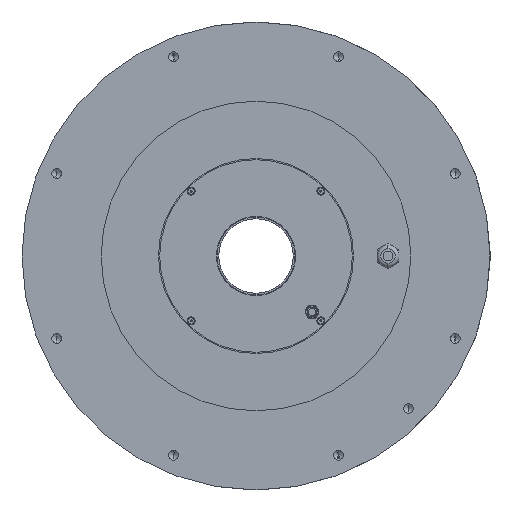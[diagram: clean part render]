
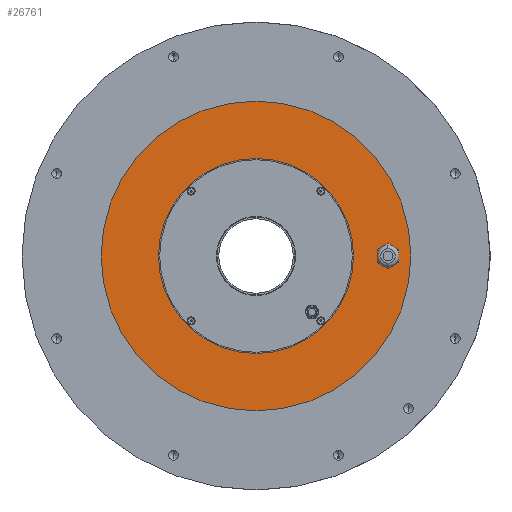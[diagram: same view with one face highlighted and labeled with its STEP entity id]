
A CAD part, front view. The second image highlights one B-rep face of the part: STEP entity #26761.
In plain terms, the highlighted planar face has unit normal (0, -1, 0).
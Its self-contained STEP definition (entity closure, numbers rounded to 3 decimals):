
#134 = EDGE_CURVE ( 'NONE', #17926, #4956, #18312, .T. ) ;
#193 = DIRECTION ( 'NONE',  ( 0., -1., 0. ) ) ;
#215 = VERTEX_POINT ( 'NONE', #12916 ) ;
#2795 = VERTEX_POINT ( 'NONE', #7818 ) ;
#2898 = AXIS2_PLACEMENT_3D ( 'NONE', #16652, #193, #32957 ) ;
#3465 = CARTESIAN_POINT ( 'NONE',  ( 115., 0., 0. ) ) ;
#3973 = CIRCLE ( 'NONE', #12915, 135. ) ;
#4238 = ORIENTED_EDGE ( 'NONE', *, *, #19837, .F. ) ;
#4525 = CARTESIAN_POINT ( 'NONE',  ( 0., 0., 0. ) ) ;
#4956 = VERTEX_POINT ( 'NONE', #31173 ) ;
#6704 = CARTESIAN_POINT ( 'NONE',  ( 115., 0., 7.25 ) ) ;
#6863 = EDGE_CURVE ( 'NONE', #215, #2795, #9346, .T. ) ;
#7202 = CARTESIAN_POINT ( 'NONE',  ( 0., 0., 0. ) ) ;
#7560 = DIRECTION ( 'NONE',  ( 0., 0., -1. ) ) ;
#7818 = CARTESIAN_POINT ( 'NONE',  ( 0., 0., -85. ) ) ;
#8483 = DIRECTION ( 'NONE',  ( 0., 1., 0. ) ) ;
#9346 = CIRCLE ( 'NONE', #9894, 85. ) ;
#9894 = AXIS2_PLACEMENT_3D ( 'NONE', #7202, #28601, #7560 ) ;
#10038 = FACE_OUTER_BOUND ( 'NONE', #12976, .T. ) ;
#12071 = AXIS2_PLACEMENT_3D ( 'NONE', #21782, #8483, #21970 ) ;
#12323 = EDGE_LOOP ( 'NONE', ( #32601, #31925 ) ) ;
#12335 = FACE_BOUND ( 'NONE', #12323, .T. ) ;
#12584 = DIRECTION ( 'NONE',  ( 0., 0., -1. ) ) ;
#12915 = AXIS2_PLACEMENT_3D ( 'NONE', #16175, #31814, #34246 ) ;
#12916 = CARTESIAN_POINT ( 'NONE',  ( 0., 0., 85. ) ) ;
#12976 = EDGE_LOOP ( 'NONE', ( #19325, #21318 ) ) ;
#13624 = AXIS2_PLACEMENT_3D ( 'NONE', #23028, #15119, #25842 ) ;
#14147 = DIRECTION ( 'NONE',  ( 0., 0., 1. ) ) ;
#15119 = DIRECTION ( 'NONE',  ( 0., -1., 0. ) ) ;
#16175 = CARTESIAN_POINT ( 'NONE',  ( 0., 0., 0. ) ) ;
#16652 = CARTESIAN_POINT ( 'NONE',  ( 0., 0., 0. ) ) ;
#17566 = CARTESIAN_POINT ( 'NONE',  ( 115., 0., -7.25 ) ) ;
#17926 = VERTEX_POINT ( 'NONE', #23473 ) ;
#17948 = AXIS2_PLACEMENT_3D ( 'NONE', #3465, #22379, #14147 ) ;
#18312 = CIRCLE ( 'NONE', #25600, 135. ) ;
#19198 = EDGE_CURVE ( 'NONE', #4956, #17926, #3973, .T. ) ;
#19325 = ORIENTED_EDGE ( 'NONE', *, *, #134, .T. ) ;
#19837 = EDGE_CURVE ( 'NONE', #2795, #215, #25290, .T. ) ;
#20054 = EDGE_LOOP ( 'NONE', ( #4238, #25935 ) ) ;
#21318 = ORIENTED_EDGE ( 'NONE', *, *, #19198, .T. ) ;
#21782 = CARTESIAN_POINT ( 'NONE',  ( 115., 0., 0. ) ) ;
#21970 = DIRECTION ( 'NONE',  ( 0., 0., 1. ) ) ;
#22379 = DIRECTION ( 'NONE',  ( 0., 1., 0. ) ) ;
#23028 = CARTESIAN_POINT ( 'NONE',  ( 85., 0., 0. ) ) ;
#23473 = CARTESIAN_POINT ( 'NONE',  ( 0., 0., -135. ) ) ;
#24118 = CIRCLE ( 'NONE', #17948, 7.25 ) ;
#25265 = VERTEX_POINT ( 'NONE', #17566 ) ;
#25290 = CIRCLE ( 'NONE', #2898, 85. ) ;
#25600 = AXIS2_PLACEMENT_3D ( 'NONE', #4525, #28387, #12584 ) ;
#25842 = DIRECTION ( 'NONE',  ( 0., 0., -1. ) ) ;
#25935 = ORIENTED_EDGE ( 'NONE', *, *, #6863, .F. ) ;
#26761 = ADVANCED_FACE ( 'NONE', ( #12335, #10038, #28657 ), #33547, .T. ) ;
#28075 = VERTEX_POINT ( 'NONE', #6704 ) ;
#28387 = DIRECTION ( 'NONE',  ( 0., -1., 0. ) ) ;
#28601 = DIRECTION ( 'NONE',  ( 0., -1., 0. ) ) ;
#28657 = FACE_BOUND ( 'NONE', #20054, .T. ) ;
#28972 = EDGE_CURVE ( 'NONE', #25265, #28075, #33906, .T. ) ;
#31173 = CARTESIAN_POINT ( 'NONE',  ( 0., 0., 135. ) ) ;
#31814 = DIRECTION ( 'NONE',  ( 0., -1., 0. ) ) ;
#31925 = ORIENTED_EDGE ( 'NONE', *, *, #28972, .T. ) ;
#32601 = ORIENTED_EDGE ( 'NONE', *, *, #34136, .T. ) ;
#32957 = DIRECTION ( 'NONE',  ( 0., 0., -1. ) ) ;
#33547 = PLANE ( 'NONE',  #13624 ) ;
#33906 = CIRCLE ( 'NONE', #12071, 7.25 ) ;
#34136 = EDGE_CURVE ( 'NONE', #28075, #25265, #24118, .T. ) ;
#34246 = DIRECTION ( 'NONE',  ( 0., 0., -1. ) ) ;
